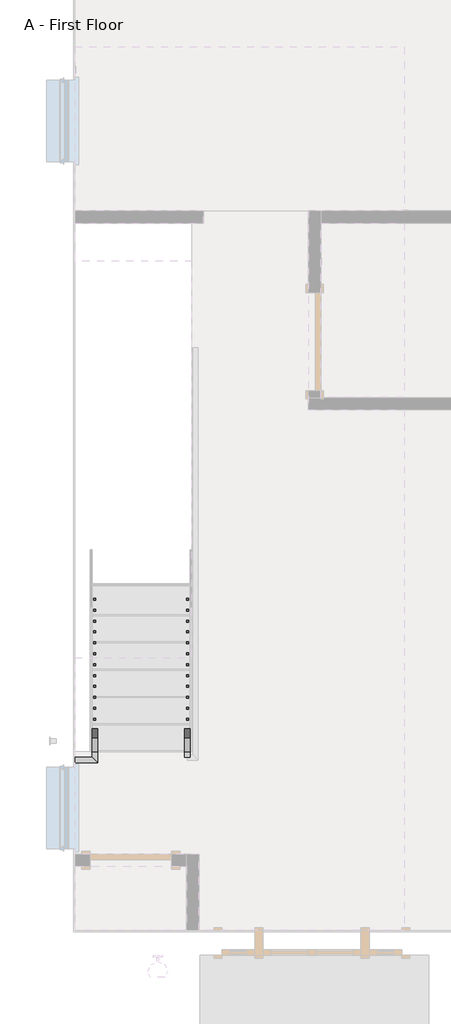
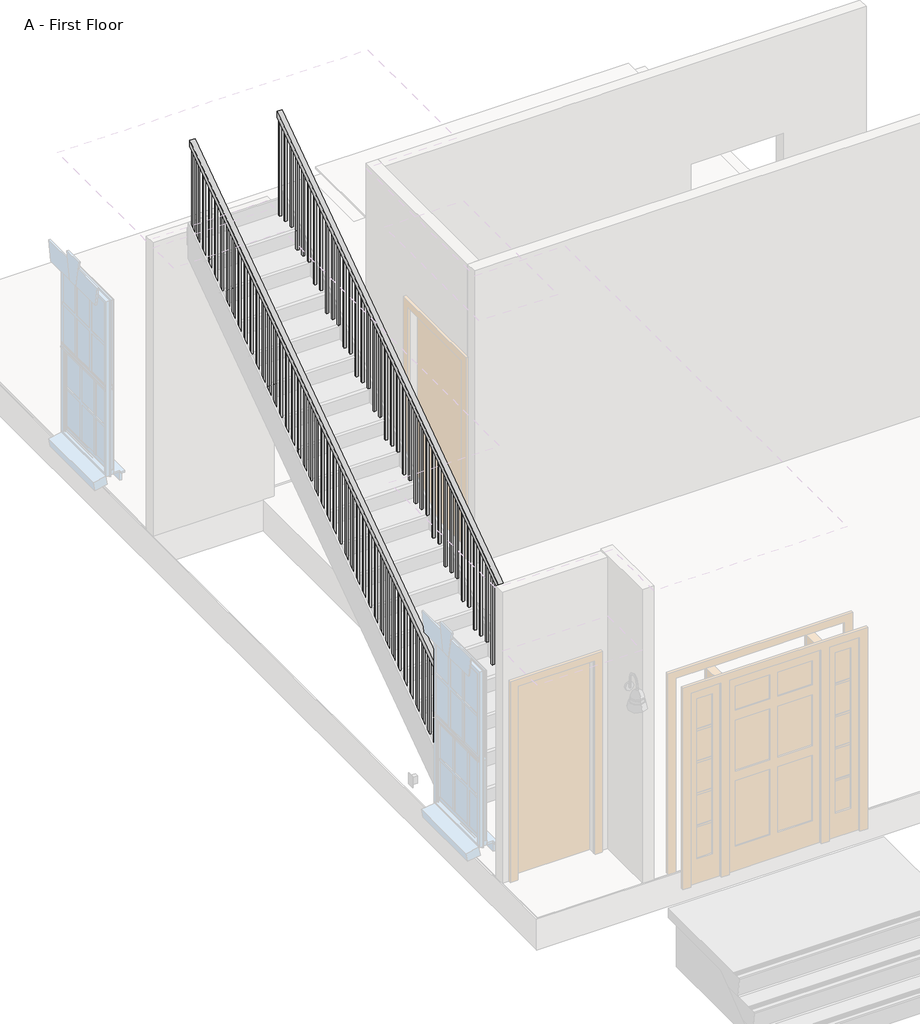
# One storey, part 2 of 3: 2 railings.
"""IFC4 building model written with IfcOpenShell, lengths in millimetres."""

import ifcopenshell
import ifcopenshell.guid

model = None  # the IFC model being written
_history = None  # IfcOwnerHistory: only IFC2X3 demands one
_inside = {}  # id of a spatial element -> (the spatial element, [elements in it])
_under = {}  # id of a project, library or spatial element -> (it, [spatial elements below it])
_declared = {}  # id of a project -> (the project, [libraries it declares])
_typed = {}  # id of a type object -> (the type object, [elements of that type])
_made_of = {}  # id of a material, layer set ... -> (it, [elements and type objects made of it])


def new_model(schema):
    """Start an empty IFC model of exactly this schema.

    Asked for "IFC4X3", IfcOpenShell would pick the latest addendum, in which some entities
    have other attributes; the version numbers below select the first issue.
    IFC2X3 requires an IfcOwnerHistory on every rooted entity: one is made here for all.
    """
    global model, _history
    if schema == "IFC4X3":
        model = ifcopenshell.file(schema_version=(4, 3, 0, 0))
    else:
        model = ifcopenshell.file(schema=schema)
    _inside.clear()
    _under.clear()
    _declared.clear()
    _typed.clear()
    _made_of.clear()
    _history = None
    if model.schema == "IFC2X3":
        org = make("IfcOrganization", Name="unknown")
        user = make(
            "IfcPersonAndOrganization",
            ThePerson=make("IfcPerson", FamilyName="unknown"),
            TheOrganization=org,
        )
        app = make(
            "IfcApplication",
            ApplicationDeveloper=org,
            Version="unknown",
            ApplicationFullName="unknown",
            ApplicationIdentifier="unknown",
        )
        _history = make(
            "IfcOwnerHistory",
            OwningUser=user,
            OwningApplication=app,
            ChangeAction="ADDED",
            CreationDate=0,
        )
    return model


def make(cls, **values):
    """One entity of the class cls with the attributes given. An attribute that is None is left unset."""
    return model.create_entity(
        cls, **{name: value for name, value in values.items() if value is not None}
    )


def rooted(cls, **values):
    """An entity with a GlobalId (a new one), such as an element, a storey or a relation."""
    return make(cls, GlobalId=ifcopenshell.guid.new(), OwnerHistory=_history, **values)


def si_unit(unit_type, name, prefix=None):
    """IfcSIUnit, for example si_unit("LENGTHUNIT", "METRE", prefix="MILLI")."""
    return make("IfcSIUnit", UnitType=unit_type, Prefix=prefix, Name=name)


def assignment(units):
    """IfcUnitAssignment: the units of a project."""
    return None if units is None else make("IfcUnitAssignment", Units=units)


def point(xyz):
    """IfcCartesianPoint."""
    return None if xyz is None else make("IfcCartesianPoint", Coordinates=xyz)


def direction(xyz):
    """IfcDirection."""
    return None if xyz is None else make("IfcDirection", DirectionRatios=xyz)


def frame(location, z_axis=None, x_axis=None):
    """IfcAxis2Placement3D, a coordinate frame: its origin and axes. An axis left out is left unset."""
    return make(
        "IfcAxis2Placement3D",
        Location=point(location),
        Axis=direction(z_axis),
        RefDirection=direction(x_axis),
    )


def origin():
    """The frame at (0, 0, 0) with its axes left unset."""
    return frame((0.0, 0.0, 0.0))


def place(relative_to, where):
    """IfcLocalPlacement: puts the frame where relative to a parent placement (None: the world)."""
    return make(
        "IfcLocalPlacement", PlacementRelTo=relative_to, RelativePlacement=where
    )


def context(
    kind, dimensions, precision=None, world=None, true_north=None, identifier=None
):
    """IfcGeometricRepresentationContext, for example the 3D "Model" context."""
    return make(
        "IfcGeometricRepresentationContext",
        ContextIdentifier=identifier,
        ContextType=kind,
        CoordinateSpaceDimension=dimensions,
        Precision=precision,
        WorldCoordinateSystem=world,
        TrueNorth=true_north,
    )


def project(units=None, contexts=None):
    """IfcProject with its units and contexts."""
    return rooted(
        "IfcProject",
        Name="project",
        RepresentationContexts=contexts,
        UnitsInContext=assignment(units),
    )


def spatial(cls, under=None, at=None, **own):
    """A site, building, storey or space (cls), placed at a placement, below another one or the project."""
    s = rooted(cls, ObjectPlacement=at, **own)
    if under is not None:
        _under.setdefault(under.id(), (under, []))[1].append(s)
    return s


def polyline(points):
    """IfcPolyline through the points."""
    return make("IfcPolyline", Points=[point(p) for p in points])


def outline(outer, holes=None, kind="AREA"):
    """IfcArbitraryClosedProfileDef: a profile drawn as a closed curve; with holes, ...WithVoids."""
    if holes is None:
        return make("IfcArbitraryClosedProfileDef", ProfileType=kind, OuterCurve=outer)
    return make(
        "IfcArbitraryProfileDefWithVoids",
        ProfileType=kind,
        OuterCurve=outer,
        InnerCurves=holes,
    )


def extrude(swept, where, along, depth):
    """IfcExtrudedAreaSolid: the profile swept, set in the frame where, extruded along a direction by depth."""
    return make(
        "IfcExtrudedAreaSolid",
        SweptArea=swept,
        Position=where,
        ExtrudedDirection=direction(along),
        Depth=depth,
    )


def faces_of(points, faces, orient=None, outer=None):
    """IfcFace entities. A face is a list of loops; a loop is a list of indices into points, from 0.

    orient and outer hold one flag for each loop. By default every Orientation is true, the
    first loop of a face is its IfcFaceOuterBound and the others are IfcFaceBound.
    """
    made = []
    for i, loops in enumerate(faces):
        bounds = []
        for j, loop in enumerate(loops):
            is_outer = j == 0 if outer is None else outer[i][j]
            bounds.append(
                make(
                    "IfcFaceOuterBound" if is_outer else "IfcFaceBound",
                    Bound=make("IfcPolyLoop", Polygon=[points[k] for k in loop]),
                    Orientation=True if orient is None else orient[i][j],
                )
            )
        made.append(make("IfcFace", Bounds=bounds))
    return made


def faceted_brep(points, faces, orient=None, outer=None, voids=None):
    """IfcFacetedBrep: a solid bounded by flat faces; with voids (closed shells), ...WithVoids."""
    shared = [point(p) for p in points]
    hull = make("IfcClosedShell", CfsFaces=faces_of(shared, faces, orient, outer))
    if voids is None:
        return make("IfcFacetedBrep", Outer=hull)
    return make(
        "IfcFacetedBrepWithVoids",
        Outer=hull,
        Voids=[
            make(cls, CfsFaces=faces_of(shared, fs, o, b)) for cls, fs, o, b in voids
        ],
    )


def shape(context_of_items, identifier, shape_type, items):
    """IfcShapeRepresentation: the items that make up one representation, for example the "Body"."""
    return make(
        "IfcShapeRepresentation",
        ContextOfItems=context_of_items,
        RepresentationIdentifier=identifier,
        RepresentationType=shape_type,
        Items=items,
    )


def made_of(thing, what):
    """Note that an element or type object is made of a material, layer set ...; save() writes the relation."""
    if what is not None:
        _made_of.setdefault(what.id(), (what, []))[1].append(thing)
    return thing


def element(
    cls,
    number,
    at=None,
    inside=None,
    cuts=None,
    type_object=None,
    material=None,
    context=None,
    identifier="Body",
    shape_type=None,
    held_by="IfcProductDefinitionShape",
    body=None,
    shapes=None,
    **own,
):
    """One element of the class cls, such as IfcWall. Its Tag is "e" and its number.

    at: its placement. inside: the storey or other place that contains it. cuts: it is an
    opening in that element (IfcRelVoidsElement). A single representation is given by context,
    identifier, shape_type and body (its items); several are given by shapes. held_by: the class
    of the entity that holds the representations. save() writes the other relations.
    """
    e = rooted(cls, Tag="e%d" % number, ObjectPlacement=at, **own)
    if body is not None:
        shapes = [shape(context, identifier, shape_type, body)]
    if shapes is not None:
        e.Representation = make(held_by, Representations=shapes)
    if inside is not None:
        _inside.setdefault(inside.id(), (inside, []))[1].append(e)
    if cuts is not None:
        rooted(
            "IfcRelVoidsElement", RelatingBuildingElement=cuts, RelatedOpeningElement=e
        )
    if type_object is not None:
        _typed.setdefault(type_object.id(), (type_object, []))[1].append(e)
    return made_of(e, material)


def aggregate(whole, parts):
    """IfcRelAggregates: a whole, such as a stair, and the parts it consists of."""
    return rooted("IfcRelAggregates", RelatingObject=whole, RelatedObjects=parts)


def save(model, path):
    """Write the relations noted so far, then the file.

    IfcRelAggregates (storeys below a building ...), IfcRelContainedInSpatialStructure (elements
    in a storey), IfcRelDefinesByType, IfcRelAssociatesMaterial and IfcRelDeclares: one each for
    every whole, place, type object, material and project.
    """
    for whole, parts in _under.values():
        aggregate(whole, parts)
    for where, things in _inside.values():
        rooted(
            "IfcRelContainedInSpatialStructure",
            RelatedElements=things,
            RelatingStructure=where,
        )
    for kind, things in _typed.values():
        rooted("IfcRelDefinesByType", RelatedObjects=things, RelatingType=kind)
    for what, things in _made_of.values():
        rooted("IfcRelAssociatesMaterial", RelatedObjects=things, RelatingMaterial=what)
    for by, libraries in _declared.values():
        rooted("IfcRelDeclares", RelatingContext=by, RelatedDefinitions=libraries)
    model.write(path)


model = new_model("IFC4")

# Units and contexts
model_context = context("Model", 3, world=origin())
ifc_project = project(units=[si_unit("LENGTHUNIT", "METRE", prefix="MILLI")], contexts=[model_context])

# Site, building, storey
site = spatial("IfcSite", under=ifc_project)
building = spatial("IfcBuilding", under=site)
storey = spatial("IfcBuildingStorey", under=building, Name="A - First Floor", Elevation=0.0)

# Railings
placement = place(None, origin())
element("IfcRailing", 1, ObjectType="Handrail - Rectangular", at=placement, inside=storey, context=model_context, shape_type="SolidModel", body=[
    faceted_brep([(-10259.5379486, -5509.8539462, 1110.9157895), (-10259.5379486, -5509.8539462, 1060.1157895), (-10208.7379486, -5509.8539462, 1060.1157895), (-10208.7379486, -5509.8539462, 1110.9157895), (-10259.5379486, -5459.0539462, 1110.9157895), (-10259.5379486, -5443.0653277, 1060.1157895), (-10208.7379486, -5443.0653277, 1060.1157895), (-10208.7379486, -5459.0539462, 1110.9157895), (-10259.5379486, -887.0539462, 4305.3), (-10208.7379486, -887.0539462, 4305.3), (-10208.7379486, -887.0539462, 4243.3290047), (-10259.5379486, -887.0539462, 4243.3290047)], [[[0, 1, 2, 3]], [[1, 0, 4, 5]], [[2, 1, 5, 6]], [[3, 2, 6, 7]], [[0, 3, 7, 4]], [[8, 9, 10, 11]], [[5, 4, 8, 11]], [[6, 5, 11, 10]], [[7, 6, 10, 9]], [[4, 7, 9, 8]]]),
    extrude(outline(polyline([(-998.1789462, 4165.6877218), (-979.1289462, 4178.997656), (-979.1289462, 3213.4342105), (-998.1789462, 3213.4342105), (-998.1789462, 4165.6877218)])), frame((-10243.6629486, 0.0, 0.0), z_axis=(1.0, 0.0, 0.0), x_axis=(0.0, 1.0, 0.0)), (0.0, 0.0, 1.0), 19.05),
    extrude(outline(polyline([(-1099.7789462, 4094.701406), (-1080.7289462, 4108.0113402), (-1080.7289462, 3213.4342105), (-1099.7789462, 3213.4342105), (-1099.7789462, 4094.701406)])), frame((-10243.6629486, 0.0, 0.0), z_axis=(1.0, 0.0, 0.0), x_axis=(0.0, 1.0, 0.0)), (0.0, 0.0, 1.0), 19.05),
    extrude(outline(polyline([(-1201.3789462, 4023.7150902), (-1182.3289462, 4037.0250244), (-1182.3289462, 3035.9684211), (-1201.3789462, 3035.9684211), (-1201.3789462, 4023.7150902)])), frame((-10243.6629486, 0.0, 0.0), z_axis=(1.0, 0.0, 0.0), x_axis=(0.0, 1.0, 0.0)), (0.0, 0.0, 1.0), 19.05),
    extrude(outline(polyline([(-1302.9789462, 3952.7287744), (-1283.9289462, 3966.0387087), (-1283.9289462, 3035.9684211), (-1302.9789462, 3035.9684211), (-1302.9789462, 3952.7287744)])), frame((-10243.6629486, 0.0, 0.0), z_axis=(1.0, 0.0, 0.0), x_axis=(0.0, 1.0, 0.0)), (0.0, 0.0, 1.0), 19.05),
    extrude(outline(polyline([(-1404.5789462, 3881.7424587), (-1385.5289462, 3895.0523929), (-1385.5289462, 3035.9684211), (-1404.5789462, 3035.9684211), (-1404.5789462, 3881.7424587)])), frame((-10243.6629486, 0.0, 0.0), z_axis=(1.0, 0.0, 0.0), x_axis=(0.0, 1.0, 0.0)), (0.0, 0.0, 1.0), 19.05),
    extrude(outline(polyline([(-1506.1789462, 3810.7561429), (-1487.1289462, 3824.0660771), (-1487.1289462, 2858.5026316), (-1506.1789462, 2858.5026316), (-1506.1789462, 3810.7561429)])), frame((-10243.6629486, 0.0, 0.0), z_axis=(1.0, 0.0, 0.0), x_axis=(0.0, 1.0, 0.0)), (0.0, 0.0, 1.0), 19.05),
    extrude(outline(polyline([(-1607.7789462, 3739.7698271), (-1588.7289462, 3753.0797613), (-1588.7289462, 2858.5026316), (-1607.7789462, 2858.5026316), (-1607.7789462, 3739.7698271)])), frame((-10243.6629486, 0.0, 0.0), z_axis=(1.0, 0.0, 0.0), x_axis=(0.0, 1.0, 0.0)), (0.0, 0.0, 1.0), 19.05),
    extrude(outline(polyline([(-1709.3789462, 3668.7835113), (-1690.3289462, 3682.0934455), (-1690.3289462, 2681.0368421), (-1709.3789462, 2681.0368421), (-1709.3789462, 3668.7835113)])), frame((-10243.6629486, 0.0, 0.0), z_axis=(1.0, 0.0, 0.0), x_axis=(0.0, 1.0, 0.0)), (0.0, 0.0, 1.0), 19.05),
    extrude(outline(polyline([(-1810.9789462, 3597.7971955), (-1791.9289462, 3611.1071297), (-1791.9289462, 2681.0368421), (-1810.9789462, 2681.0368421), (-1810.9789462, 3597.7971955)])), frame((-10243.6629486, 0.0, 0.0), z_axis=(1.0, 0.0, 0.0), x_axis=(0.0, 1.0, 0.0)), (0.0, 0.0, 1.0), 19.05),
    extrude(outline(polyline([(-1912.5789462, 3526.8108797), (-1893.5289462, 3540.1208139), (-1893.5289462, 2681.0368421), (-1912.5789462, 2681.0368421), (-1912.5789462, 3526.8108797)])), frame((-10243.6629486, 0.0, 0.0), z_axis=(1.0, 0.0, 0.0), x_axis=(0.0, 1.0, 0.0)), (0.0, 0.0, 1.0), 19.05),
    extrude(outline(polyline([(-2014.1789462, 3455.8245639), (-1995.1289462, 3469.1344981), (-1995.1289462, 2503.5710526), (-2014.1789462, 2503.5710526), (-2014.1789462, 3455.8245639)])), frame((-10243.6629486, 0.0, 0.0), z_axis=(1.0, 0.0, 0.0), x_axis=(0.0, 1.0, 0.0)), (0.0, 0.0, 1.0), 19.05),
    extrude(outline(polyline([(-2115.7789462, 3384.8382481), (-2096.7289462, 3398.1481823), (-2096.7289462, 2503.5710526), (-2115.7789462, 2503.5710526), (-2115.7789462, 3384.8382481)])), frame((-10243.6629486, 0.0, 0.0), z_axis=(1.0, 0.0, 0.0), x_axis=(0.0, 1.0, 0.0)), (0.0, 0.0, 1.0), 19.05),
    extrude(outline(polyline([(-2217.3789462, 3313.8519323), (-2198.3289462, 3327.1618666), (-2198.3289462, 2326.1052632), (-2217.3789462, 2326.1052632), (-2217.3789462, 3313.8519323)])), frame((-10243.6629486, 0.0, 0.0), z_axis=(1.0, 0.0, 0.0), x_axis=(0.0, 1.0, 0.0)), (0.0, 0.0, 1.0), 19.05),
    extrude(outline(polyline([(-2318.9789462, 3242.8656166), (-2299.9289462, 3256.1755508), (-2299.9289462, 2326.1052632), (-2318.9789462, 2326.1052632), (-2318.9789462, 3242.8656166)])), frame((-10243.6629486, 0.0, 0.0), z_axis=(1.0, 0.0, 0.0), x_axis=(0.0, 1.0, 0.0)), (0.0, 0.0, 1.0), 19.05),
    extrude(outline(polyline([(-2420.5789462, 3171.8793008), (-2401.5289462, 3185.189235), (-2401.5289462, 2326.1052632), (-2420.5789462, 2326.1052632), (-2420.5789462, 3171.8793008)])), frame((-10243.6629486, 0.0, 0.0), z_axis=(1.0, 0.0, 0.0), x_axis=(0.0, 1.0, 0.0)), (0.0, 0.0, 1.0), 19.05),
    extrude(outline(polyline([(-2522.1789462, 3100.892985), (-2503.1289462, 3114.2029192), (-2503.1289462, 2148.6394737), (-2522.1789462, 2148.6394737), (-2522.1789462, 3100.892985)])), frame((-10243.6629486, 0.0, 0.0), z_axis=(1.0, 0.0, 0.0), x_axis=(0.0, 1.0, 0.0)), (0.0, 0.0, 1.0), 19.05),
    extrude(outline(polyline([(-2623.7789462, 3029.9066692), (-2604.7289462, 3043.2166034), (-2604.7289462, 2148.6394737), (-2623.7789462, 2148.6394737), (-2623.7789462, 3029.9066692)])), frame((-10243.6629486, 0.0, 0.0), z_axis=(1.0, 0.0, 0.0), x_axis=(0.0, 1.0, 0.0)), (0.0, 0.0, 1.0), 19.05),
    extrude(outline(polyline([(-2725.3789462, 2958.9203534), (-2706.3289462, 2972.2302876), (-2706.3289462, 1971.1736842), (-2725.3789462, 1971.1736842), (-2725.3789462, 2958.9203534)])), frame((-10243.6629486, 0.0, 0.0), z_axis=(1.0, 0.0, 0.0), x_axis=(0.0, 1.0, 0.0)), (0.0, 0.0, 1.0), 19.05),
    extrude(outline(polyline([(-2826.9789462, 2887.9340376), (-2807.9289462, 2901.2439718), (-2807.9289462, 1971.1736842), (-2826.9789462, 1971.1736842), (-2826.9789462, 2887.9340376)])), frame((-10243.6629486, 0.0, 0.0), z_axis=(1.0, 0.0, 0.0), x_axis=(0.0, 1.0, 0.0)), (0.0, 0.0, 1.0), 19.05),
    extrude(outline(polyline([(-2928.5789462, 2816.9477218), (-2909.5289462, 2830.257656), (-2909.5289462, 1971.1736842), (-2928.5789462, 1971.1736842), (-2928.5789462, 2816.9477218)])), frame((-10243.6629486, 0.0, 0.0), z_axis=(1.0, 0.0, 0.0), x_axis=(0.0, 1.0, 0.0)), (0.0, 0.0, 1.0), 19.05),
    extrude(outline(polyline([(-3030.1789462, 2745.961406), (-3011.1289462, 2759.2713402), (-3011.1289462, 1793.7078947), (-3030.1789462, 1793.7078947), (-3030.1789462, 2745.961406)])), frame((-10243.6629486, 0.0, 0.0), z_axis=(1.0, 0.0, 0.0), x_axis=(0.0, 1.0, 0.0)), (0.0, 0.0, 1.0), 19.05),
    extrude(outline(polyline([(-3131.7789462, 2674.9750902), (-3112.7289462, 2688.2850244), (-3112.7289462, 1793.7078947), (-3131.7789462, 1793.7078947), (-3131.7789462, 2674.9750902)])), frame((-10243.6629486, 0.0, 0.0), z_axis=(1.0, 0.0, 0.0), x_axis=(0.0, 1.0, 0.0)), (0.0, 0.0, 1.0), 19.05),
    extrude(outline(polyline([(-3233.3789462, 2603.9887744), (-3214.3289462, 2617.2987087), (-3214.3289462, 1616.2421053), (-3233.3789462, 1616.2421053), (-3233.3789462, 2603.9887744)])), frame((-10243.6629486, 0.0, 0.0), z_axis=(1.0, 0.0, 0.0), x_axis=(0.0, 1.0, 0.0)), (0.0, 0.0, 1.0), 19.05),
    extrude(outline(polyline([(-3334.9789462, 2533.0024587), (-3315.9289462, 2546.3123929), (-3315.9289462, 1616.2421053), (-3334.9789462, 1616.2421053), (-3334.9789462, 2533.0024587)])), frame((-10243.6629486, 0.0, 0.0), z_axis=(1.0, 0.0, 0.0), x_axis=(0.0, 1.0, 0.0)), (0.0, 0.0, 1.0), 19.05),
    extrude(outline(polyline([(-3436.5789462, 2462.0161429), (-3417.5289462, 2475.3260771), (-3417.5289462, 1616.2421053), (-3436.5789462, 1616.2421053), (-3436.5789462, 2462.0161429)])), frame((-10243.6629486, 0.0, 0.0), z_axis=(1.0, 0.0, 0.0), x_axis=(0.0, 1.0, 0.0)), (0.0, 0.0, 1.0), 19.05),
    extrude(outline(polyline([(-3538.1789462, 2391.0298271), (-3519.1289462, 2404.3397613), (-3519.1289462, 1438.7763158), (-3538.1789462, 1438.7763158), (-3538.1789462, 2391.0298271)])), frame((-10243.6629486, 0.0, 0.0), z_axis=(1.0, 0.0, 0.0), x_axis=(0.0, 1.0, 0.0)), (0.0, 0.0, 1.0), 19.05),
    extrude(outline(polyline([(-3639.7789462, 2320.0435113), (-3620.7289462, 2333.3534455), (-3620.7289462, 1438.7763158), (-3639.7789462, 1438.7763158), (-3639.7789462, 2320.0435113)])), frame((-10243.6629486, 0.0, 0.0), z_axis=(1.0, 0.0, 0.0), x_axis=(0.0, 1.0, 0.0)), (0.0, 0.0, 1.0), 19.05),
    extrude(outline(polyline([(-3741.3789462, 2249.0571955), (-3722.3289462, 2262.3671297), (-3722.3289462, 1261.3105263), (-3741.3789462, 1261.3105263), (-3741.3789462, 2249.0571955)])), frame((-10243.6629486, 0.0, 0.0), z_axis=(1.0, 0.0, 0.0), x_axis=(0.0, 1.0, 0.0)), (0.0, 0.0, 1.0), 19.05),
    extrude(outline(polyline([(-3842.9789462, 2178.0708797), (-3823.9289462, 2191.3808139), (-3823.9289462, 1261.3105263), (-3842.9789462, 1261.3105263), (-3842.9789462, 2178.0708797)])), frame((-10243.6629486, 0.0, 0.0), z_axis=(1.0, 0.0, 0.0), x_axis=(0.0, 1.0, 0.0)), (0.0, 0.0, 1.0), 19.05),
    extrude(outline(polyline([(-3944.5789462, 2107.0845639), (-3925.5289462, 2120.3944981), (-3925.5289462, 1261.3105263), (-3944.5789462, 1261.3105263), (-3944.5789462, 2107.0845639)])), frame((-10243.6629486, 0.0, 0.0), z_axis=(1.0, 0.0, 0.0), x_axis=(0.0, 1.0, 0.0)), (0.0, 0.0, 1.0), 19.05),
    extrude(outline(polyline([(-4046.1789462, 2036.0982481), (-4027.1289462, 2049.4081823), (-4027.1289462, 1083.8447368), (-4046.1789462, 1083.8447368), (-4046.1789462, 2036.0982481)])), frame((-10243.6629486, 0.0, 0.0), z_axis=(1.0, 0.0, 0.0), x_axis=(0.0, 1.0, 0.0)), (0.0, 0.0, 1.0), 19.05),
    extrude(outline(polyline([(-4147.7789462, 1965.1119323), (-4128.7289462, 1978.4218666), (-4128.7289462, 1083.8447368), (-4147.7789462, 1083.8447368), (-4147.7789462, 1965.1119323)])), frame((-10243.6629486, 0.0, 0.0), z_axis=(1.0, 0.0, 0.0), x_axis=(0.0, 1.0, 0.0)), (0.0, 0.0, 1.0), 19.05),
    extrude(outline(polyline([(-4249.3789462, 1894.1256166), (-4230.3289462, 1907.4355508), (-4230.3289462, 906.3789474), (-4249.3789462, 906.3789474), (-4249.3789462, 1894.1256166)])), frame((-10243.6629486, 0.0, 0.0), z_axis=(1.0, 0.0, 0.0), x_axis=(0.0, 1.0, 0.0)), (0.0, 0.0, 1.0), 19.05),
    extrude(outline(polyline([(-4350.9789462, 1823.1393008), (-4331.9289462, 1836.449235), (-4331.9289462, 906.3789474), (-4350.9789462, 906.3789474), (-4350.9789462, 1823.1393008)])), frame((-10243.6629486, 0.0, 0.0), z_axis=(1.0, 0.0, 0.0), x_axis=(0.0, 1.0, 0.0)), (0.0, 0.0, 1.0), 19.05),
    extrude(outline(polyline([(-4452.5789462, 1752.152985), (-4433.5289462, 1765.4629192), (-4433.5289462, 906.3789474), (-4452.5789462, 906.3789474), (-4452.5789462, 1752.152985)])), frame((-10243.6629486, 0.0, 0.0), z_axis=(1.0, 0.0, 0.0), x_axis=(0.0, 1.0, 0.0)), (0.0, 0.0, 1.0), 19.05),
    extrude(outline(polyline([(-4554.1789462, 1681.1666692), (-4535.1289462, 1694.4766034), (-4535.1289462, 728.9131579), (-4554.1789462, 728.9131579), (-4554.1789462, 1681.1666692)])), frame((-10243.6629486, 0.0, 0.0), z_axis=(1.0, 0.0, 0.0), x_axis=(0.0, 1.0, 0.0)), (0.0, 0.0, 1.0), 19.05),
    extrude(outline(polyline([(-4655.7789462, 1610.1803534), (-4636.7289462, 1623.4902876), (-4636.7289462, 728.9131579), (-4655.7789462, 728.9131579), (-4655.7789462, 1610.1803534)])), frame((-10243.6629486, 0.0, 0.0), z_axis=(1.0, 0.0, 0.0), x_axis=(0.0, 1.0, 0.0)), (0.0, 0.0, 1.0), 19.05),
    extrude(outline(polyline([(-4757.3789462, 1539.1940376), (-4738.3289462, 1552.5039718), (-4738.3289462, 551.4473684), (-4757.3789462, 551.4473684), (-4757.3789462, 1539.1940376)])), frame((-10243.6629486, 0.0, 0.0), z_axis=(1.0, 0.0, 0.0), x_axis=(0.0, 1.0, 0.0)), (0.0, 0.0, 1.0), 19.05),
    extrude(outline(polyline([(-4858.9789462, 1468.2077218), (-4839.9289462, 1481.517656), (-4839.9289462, 551.4473684), (-4858.9789462, 551.4473684), (-4858.9789462, 1468.2077218)])), frame((-10243.6629486, 0.0, 0.0), z_axis=(1.0, 0.0, 0.0), x_axis=(0.0, 1.0, 0.0)), (0.0, 0.0, 1.0), 19.05),
    extrude(outline(polyline([(-4960.5789462, 1397.221406), (-4941.5289462, 1410.5313402), (-4941.5289462, 551.4473684), (-4960.5789462, 551.4473684), (-4960.5789462, 1397.221406)])), frame((-10243.6629486, 0.0, 0.0), z_axis=(1.0, 0.0, 0.0), x_axis=(0.0, 1.0, 0.0)), (0.0, 0.0, 1.0), 19.05),
    extrude(outline(polyline([(-5062.1789462, 1326.2350902), (-5043.1289462, 1339.5450244), (-5043.1289462, 373.9815789), (-5062.1789462, 373.9815789), (-5062.1789462, 1326.2350902)])), frame((-10243.6629486, 0.0, 0.0), z_axis=(1.0, 0.0, 0.0), x_axis=(0.0, 1.0, 0.0)), (0.0, 0.0, 1.0), 19.05),
    extrude(outline(polyline([(-5163.7789462, 1255.2487744), (-5144.7289462, 1268.5587087), (-5144.7289462, 373.9815789), (-5163.7789462, 373.9815789), (-5163.7789462, 1255.2487744)])), frame((-10243.6629486, 0.0, 0.0), z_axis=(1.0, 0.0, 0.0), x_axis=(0.0, 1.0, 0.0)), (0.0, 0.0, 1.0), 19.05),
    extrude(outline(polyline([(-5265.3789462, 1184.2624587), (-5246.3289462, 1197.5723929), (-5246.3289462, 196.5157895), (-5265.3789462, 196.5157895), (-5265.3789462, 1184.2624587)])), frame((-10243.6629486, 0.0, 0.0), z_axis=(1.0, 0.0, 0.0), x_axis=(0.0, 1.0, 0.0)), (0.0, 0.0, 1.0), 19.05),
    extrude(outline(polyline([(-5366.9789462, 1113.2761429), (-5347.9289462, 1126.5860771), (-5347.9289462, 196.5157895), (-5366.9789462, 196.5157895), (-5366.9789462, 1113.2761429)])), frame((-10243.6629486, 0.0, 0.0), z_axis=(1.0, 0.0, 0.0), x_axis=(0.0, 1.0, 0.0)), (0.0, 0.0, 1.0), 19.05),
    extrude(outline(polyline([(-10224.6129486, -5468.5789462), (-10243.6629486, -5468.5789462), (-10243.6629486, -5449.5289462), (-10224.6129486, -5449.5289462), (-10224.6129486, -5468.5789462)])), frame((0.0, 0.0, 196.5157895), z_axis=(0.0, 0.0, 1.0), x_axis=(1.0, 0.0, 0.0)), (0.0, 0.0, 1.0), 863.6),
    extrude(outline(polyline([(-906.1039462, 4230.0190705), (-887.0539462, 4243.3290047), (-887.0539462, 3213.4342105), (-906.1039462, 3213.4342105), (-906.1039462, 4230.0190705)])), frame((-10243.6629486, 0.0, 0.0), z_axis=(1.0, 0.0, 0.0), x_axis=(0.0, 1.0, 0.0)), (0.0, 0.0, 1.0), 19.05),
    extrude(outline(polyline([(-10224.6129486, -5509.8539462), (-10243.6629486, -5509.8539462), (-10243.6629486, -5490.8039462), (-10224.6129486, -5490.8039462), (-10224.6129486, -5509.8539462)])), frame((0.0, 0.0, 196.5157895), z_axis=(0.0, 0.0, 1.0), x_axis=(1.0, 0.0, 0.0)), (0.0, 0.0, 1.0), 863.6),
])
element("IfcRailing", 2, ObjectType="Handrail - Rectangular", at=placement, inside=storey, context=model_context, shape_type="SolidModel", body=[
    faceted_brep([(-11281.8879486, -5509.8539462, 1110.9157895), (-11281.8879486, -5509.8539462, 1060.1157895), (-11281.8879486, -5560.6539462, 1060.1157895), (-11281.8879486, -5560.6539462, 1110.9157895), (-11123.1379486, -5509.8539462, 1110.9157895), (-11123.1379486, -5509.8539462, 1060.1157895), (-11072.3379486, -5560.6539462, 1060.1157895), (-11072.3379486, -5560.6539462, 1110.9157895), (-11123.1379486, -5459.0539462, 1110.9157895), (-11123.1379486, -5443.0653277, 1060.1157895), (-11072.3379486, -5443.0653277, 1060.1157895), (-11072.3379486, -5459.0539462, 1110.9157895), (-11123.1379486, -887.0539462, 4305.3), (-11072.3379486, -887.0539462, 4305.3), (-11072.3379486, -887.0539462, 4243.3290047), (-11123.1379486, -887.0539462, 4243.3290047)], [[[0, 1, 2, 3]], [[1, 0, 4, 5]], [[2, 1, 5, 6]], [[3, 2, 6, 7]], [[0, 3, 7, 4]], [[5, 4, 8, 9]], [[6, 5, 9, 10]], [[7, 6, 10, 11]], [[4, 7, 11, 8]], [[12, 13, 14, 15]], [[9, 8, 12, 15]], [[10, 9, 15, 14]], [[11, 10, 14, 13]], [[8, 11, 13, 12]]]),
    extrude(outline(polyline([(-979.1289462, 4178.997656), (-979.1289462, 3213.4342105), (-998.1789462, 3213.4342105), (-998.1789462, 4165.6877218), (-979.1289462, 4178.997656)])), frame((-11107.2629486, 0.0, 0.0), z_axis=(1.0, 0.0, 0.0), x_axis=(0.0, 1.0, 0.0)), (0.0, 0.0, 1.0), 19.05),
    extrude(outline(polyline([(-1080.7289462, 4108.0113402), (-1080.7289462, 3213.4342105), (-1099.7789462, 3213.4342105), (-1099.7789462, 4094.701406), (-1080.7289462, 4108.0113402)])), frame((-11107.2629486, 0.0, 0.0), z_axis=(1.0, 0.0, 0.0), x_axis=(0.0, 1.0, 0.0)), (0.0, 0.0, 1.0), 19.05),
    extrude(outline(polyline([(-1182.3289462, 4037.0250244), (-1182.3289462, 3035.9684211), (-1201.3789462, 3035.9684211), (-1201.3789462, 4023.7150902), (-1182.3289462, 4037.0250244)])), frame((-11107.2629486, 0.0, 0.0), z_axis=(1.0, 0.0, 0.0), x_axis=(0.0, 1.0, 0.0)), (0.0, 0.0, 1.0), 19.05),
    extrude(outline(polyline([(-1283.9289462, 3966.0387087), (-1283.9289462, 3035.9684211), (-1302.9789462, 3035.9684211), (-1302.9789462, 3952.7287744), (-1283.9289462, 3966.0387087)])), frame((-11107.2629486, 0.0, 0.0), z_axis=(1.0, 0.0, 0.0), x_axis=(0.0, 1.0, 0.0)), (0.0, 0.0, 1.0), 19.05),
    extrude(outline(polyline([(-1385.5289462, 3895.0523929), (-1385.5289462, 3035.9684211), (-1404.5789462, 3035.9684211), (-1404.5789462, 3881.7424587), (-1385.5289462, 3895.0523929)])), frame((-11107.2629486, 0.0, 0.0), z_axis=(1.0, 0.0, 0.0), x_axis=(0.0, 1.0, 0.0)), (0.0, 0.0, 1.0), 19.05),
    extrude(outline(polyline([(-1487.1289462, 3824.0660771), (-1487.1289462, 2858.5026316), (-1506.1789462, 2858.5026316), (-1506.1789462, 3810.7561429), (-1487.1289462, 3824.0660771)])), frame((-11107.2629486, 0.0, 0.0), z_axis=(1.0, 0.0, 0.0), x_axis=(0.0, 1.0, 0.0)), (0.0, 0.0, 1.0), 19.05),
    extrude(outline(polyline([(-1588.7289462, 3753.0797613), (-1588.7289462, 2858.5026316), (-1607.7789462, 2858.5026316), (-1607.7789462, 3739.7698271), (-1588.7289462, 3753.0797613)])), frame((-11107.2629486, 0.0, 0.0), z_axis=(1.0, 0.0, 0.0), x_axis=(0.0, 1.0, 0.0)), (0.0, 0.0, 1.0), 19.05),
    extrude(outline(polyline([(-1690.3289462, 3682.0934455), (-1690.3289462, 2681.0368421), (-1709.3789462, 2681.0368421), (-1709.3789462, 3668.7835113), (-1690.3289462, 3682.0934455)])), frame((-11107.2629486, 0.0, 0.0), z_axis=(1.0, 0.0, 0.0), x_axis=(0.0, 1.0, 0.0)), (0.0, 0.0, 1.0), 19.05),
    extrude(outline(polyline([(-1791.9289462, 3611.1071297), (-1791.9289462, 2681.0368421), (-1810.9789462, 2681.0368421), (-1810.9789462, 3597.7971955), (-1791.9289462, 3611.1071297)])), frame((-11107.2629486, 0.0, 0.0), z_axis=(1.0, 0.0, 0.0), x_axis=(0.0, 1.0, 0.0)), (0.0, 0.0, 1.0), 19.05),
    extrude(outline(polyline([(-1893.5289462, 3540.1208139), (-1893.5289462, 2681.0368421), (-1912.5789462, 2681.0368421), (-1912.5789462, 3526.8108797), (-1893.5289462, 3540.1208139)])), frame((-11107.2629486, 0.0, 0.0), z_axis=(1.0, 0.0, 0.0), x_axis=(0.0, 1.0, 0.0)), (0.0, 0.0, 1.0), 19.05),
    extrude(outline(polyline([(-1995.1289462, 3469.1344981), (-1995.1289462, 2503.5710526), (-2014.1789462, 2503.5710526), (-2014.1789462, 3455.8245639), (-1995.1289462, 3469.1344981)])), frame((-11107.2629486, 0.0, 0.0), z_axis=(1.0, 0.0, 0.0), x_axis=(0.0, 1.0, 0.0)), (0.0, 0.0, 1.0), 19.05),
    extrude(outline(polyline([(-2096.7289462, 3398.1481823), (-2096.7289462, 2503.5710526), (-2115.7789462, 2503.5710526), (-2115.7789462, 3384.8382481), (-2096.7289462, 3398.1481823)])), frame((-11107.2629486, 0.0, 0.0), z_axis=(1.0, 0.0, 0.0), x_axis=(0.0, 1.0, 0.0)), (0.0, 0.0, 1.0), 19.05),
    extrude(outline(polyline([(-2198.3289462, 3327.1618666), (-2198.3289462, 2326.1052632), (-2217.3789462, 2326.1052632), (-2217.3789462, 3313.8519323), (-2198.3289462, 3327.1618666)])), frame((-11107.2629486, 0.0, 0.0), z_axis=(1.0, 0.0, 0.0), x_axis=(0.0, 1.0, 0.0)), (0.0, 0.0, 1.0), 19.05),
    extrude(outline(polyline([(-2299.9289462, 3256.1755508), (-2299.9289462, 2326.1052632), (-2318.9789462, 2326.1052632), (-2318.9789462, 3242.8656166), (-2299.9289462, 3256.1755508)])), frame((-11107.2629486, 0.0, 0.0), z_axis=(1.0, 0.0, 0.0), x_axis=(0.0, 1.0, 0.0)), (0.0, 0.0, 1.0), 19.05),
    extrude(outline(polyline([(-2401.5289462, 3185.189235), (-2401.5289462, 2326.1052632), (-2420.5789462, 2326.1052632), (-2420.5789462, 3171.8793008), (-2401.5289462, 3185.189235)])), frame((-11107.2629486, 0.0, 0.0), z_axis=(1.0, 0.0, 0.0), x_axis=(0.0, 1.0, 0.0)), (0.0, 0.0, 1.0), 19.05),
    extrude(outline(polyline([(-2503.1289462, 3114.2029192), (-2503.1289462, 2148.6394737), (-2522.1789462, 2148.6394737), (-2522.1789462, 3100.892985), (-2503.1289462, 3114.2029192)])), frame((-11107.2629486, 0.0, 0.0), z_axis=(1.0, 0.0, 0.0), x_axis=(0.0, 1.0, 0.0)), (0.0, 0.0, 1.0), 19.05),
    extrude(outline(polyline([(-2604.7289462, 3043.2166034), (-2604.7289462, 2148.6394737), (-2623.7789462, 2148.6394737), (-2623.7789462, 3029.9066692), (-2604.7289462, 3043.2166034)])), frame((-11107.2629486, 0.0, 0.0), z_axis=(1.0, 0.0, 0.0), x_axis=(0.0, 1.0, 0.0)), (0.0, 0.0, 1.0), 19.05),
    extrude(outline(polyline([(-2706.3289462, 2972.2302876), (-2706.3289462, 1971.1736842), (-2725.3789462, 1971.1736842), (-2725.3789462, 2958.9203534), (-2706.3289462, 2972.2302876)])), frame((-11107.2629486, 0.0, 0.0), z_axis=(1.0, 0.0, 0.0), x_axis=(0.0, 1.0, 0.0)), (0.0, 0.0, 1.0), 19.05),
    extrude(outline(polyline([(-2807.9289462, 2901.2439718), (-2807.9289462, 1971.1736842), (-2826.9789462, 1971.1736842), (-2826.9789462, 2887.9340376), (-2807.9289462, 2901.2439718)])), frame((-11107.2629486, 0.0, 0.0), z_axis=(1.0, 0.0, 0.0), x_axis=(0.0, 1.0, 0.0)), (0.0, 0.0, 1.0), 19.05),
    extrude(outline(polyline([(-2909.5289462, 2830.257656), (-2909.5289462, 1971.1736842), (-2928.5789462, 1971.1736842), (-2928.5789462, 2816.9477218), (-2909.5289462, 2830.257656)])), frame((-11107.2629486, 0.0, 0.0), z_axis=(1.0, 0.0, 0.0), x_axis=(0.0, 1.0, 0.0)), (0.0, 0.0, 1.0), 19.05),
    extrude(outline(polyline([(-3011.1289462, 2759.2713402), (-3011.1289462, 1793.7078947), (-3030.1789462, 1793.7078947), (-3030.1789462, 2745.961406), (-3011.1289462, 2759.2713402)])), frame((-11107.2629486, 0.0, 0.0), z_axis=(1.0, 0.0, 0.0), x_axis=(0.0, 1.0, 0.0)), (0.0, 0.0, 1.0), 19.05),
    extrude(outline(polyline([(-3112.7289462, 2688.2850244), (-3112.7289462, 1793.7078947), (-3131.7789462, 1793.7078947), (-3131.7789462, 2674.9750902), (-3112.7289462, 2688.2850244)])), frame((-11107.2629486, 0.0, 0.0), z_axis=(1.0, 0.0, 0.0), x_axis=(0.0, 1.0, 0.0)), (0.0, 0.0, 1.0), 19.05),
    extrude(outline(polyline([(-3214.3289462, 2617.2987087), (-3214.3289462, 1616.2421053), (-3233.3789462, 1616.2421053), (-3233.3789462, 2603.9887744), (-3214.3289462, 2617.2987087)])), frame((-11107.2629486, 0.0, 0.0), z_axis=(1.0, 0.0, 0.0), x_axis=(0.0, 1.0, 0.0)), (0.0, 0.0, 1.0), 19.05),
    extrude(outline(polyline([(-3315.9289462, 2546.3123929), (-3315.9289462, 1616.2421053), (-3334.9789462, 1616.2421053), (-3334.9789462, 2533.0024587), (-3315.9289462, 2546.3123929)])), frame((-11107.2629486, 0.0, 0.0), z_axis=(1.0, 0.0, 0.0), x_axis=(0.0, 1.0, 0.0)), (0.0, 0.0, 1.0), 19.05),
    extrude(outline(polyline([(-3417.5289462, 2475.3260771), (-3417.5289462, 1616.2421053), (-3436.5789462, 1616.2421053), (-3436.5789462, 2462.0161429), (-3417.5289462, 2475.3260771)])), frame((-11107.2629486, 0.0, 0.0), z_axis=(1.0, 0.0, 0.0), x_axis=(0.0, 1.0, 0.0)), (0.0, 0.0, 1.0), 19.05),
    extrude(outline(polyline([(-3519.1289462, 2404.3397613), (-3519.1289462, 1438.7763158), (-3538.1789462, 1438.7763158), (-3538.1789462, 2391.0298271), (-3519.1289462, 2404.3397613)])), frame((-11107.2629486, 0.0, 0.0), z_axis=(1.0, 0.0, 0.0), x_axis=(0.0, 1.0, 0.0)), (0.0, 0.0, 1.0), 19.05),
    extrude(outline(polyline([(-3620.7289462, 2333.3534455), (-3620.7289462, 1438.7763158), (-3639.7789462, 1438.7763158), (-3639.7789462, 2320.0435113), (-3620.7289462, 2333.3534455)])), frame((-11107.2629486, 0.0, 0.0), z_axis=(1.0, 0.0, 0.0), x_axis=(0.0, 1.0, 0.0)), (0.0, 0.0, 1.0), 19.05),
    extrude(outline(polyline([(-3722.3289462, 2262.3671297), (-3722.3289462, 1261.3105263), (-3741.3789462, 1261.3105263), (-3741.3789462, 2249.0571955), (-3722.3289462, 2262.3671297)])), frame((-11107.2629486, 0.0, 0.0), z_axis=(1.0, 0.0, 0.0), x_axis=(0.0, 1.0, 0.0)), (0.0, 0.0, 1.0), 19.05),
    extrude(outline(polyline([(-3823.9289462, 2191.3808139), (-3823.9289462, 1261.3105263), (-3842.9789462, 1261.3105263), (-3842.9789462, 2178.0708797), (-3823.9289462, 2191.3808139)])), frame((-11107.2629486, 0.0, 0.0), z_axis=(1.0, 0.0, 0.0), x_axis=(0.0, 1.0, 0.0)), (0.0, 0.0, 1.0), 19.05),
    extrude(outline(polyline([(-3925.5289462, 2120.3944981), (-3925.5289462, 1261.3105263), (-3944.5789462, 1261.3105263), (-3944.5789462, 2107.0845639), (-3925.5289462, 2120.3944981)])), frame((-11107.2629486, 0.0, 0.0), z_axis=(1.0, 0.0, 0.0), x_axis=(0.0, 1.0, 0.0)), (0.0, 0.0, 1.0), 19.05),
    extrude(outline(polyline([(-4027.1289462, 2049.4081823), (-4027.1289462, 1083.8447368), (-4046.1789462, 1083.8447368), (-4046.1789462, 2036.0982481), (-4027.1289462, 2049.4081823)])), frame((-11107.2629486, 0.0, 0.0), z_axis=(1.0, 0.0, 0.0), x_axis=(0.0, 1.0, 0.0)), (0.0, 0.0, 1.0), 19.05),
    extrude(outline(polyline([(-4128.7289462, 1978.4218666), (-4128.7289462, 1083.8447368), (-4147.7789462, 1083.8447368), (-4147.7789462, 1965.1119323), (-4128.7289462, 1978.4218666)])), frame((-11107.2629486, 0.0, 0.0), z_axis=(1.0, 0.0, 0.0), x_axis=(0.0, 1.0, 0.0)), (0.0, 0.0, 1.0), 19.05),
    extrude(outline(polyline([(-4230.3289462, 1907.4355508), (-4230.3289462, 906.3789474), (-4249.3789462, 906.3789474), (-4249.3789462, 1894.1256166), (-4230.3289462, 1907.4355508)])), frame((-11107.2629486, 0.0, 0.0), z_axis=(1.0, 0.0, 0.0), x_axis=(0.0, 1.0, 0.0)), (0.0, 0.0, 1.0), 19.05),
    extrude(outline(polyline([(-4331.9289462, 1836.449235), (-4331.9289462, 906.3789474), (-4350.9789462, 906.3789474), (-4350.9789462, 1823.1393008), (-4331.9289462, 1836.449235)])), frame((-11107.2629486, 0.0, 0.0), z_axis=(1.0, 0.0, 0.0), x_axis=(0.0, 1.0, 0.0)), (0.0, 0.0, 1.0), 19.05),
    extrude(outline(polyline([(-4433.5289462, 1765.4629192), (-4433.5289462, 906.3789474), (-4452.5789462, 906.3789474), (-4452.5789462, 1752.152985), (-4433.5289462, 1765.4629192)])), frame((-11107.2629486, 0.0, 0.0), z_axis=(1.0, 0.0, 0.0), x_axis=(0.0, 1.0, 0.0)), (0.0, 0.0, 1.0), 19.05),
    extrude(outline(polyline([(-4535.1289462, 1694.4766034), (-4535.1289462, 728.9131579), (-4554.1789462, 728.9131579), (-4554.1789462, 1681.1666692), (-4535.1289462, 1694.4766034)])), frame((-11107.2629486, 0.0, 0.0), z_axis=(1.0, 0.0, 0.0), x_axis=(0.0, 1.0, 0.0)), (0.0, 0.0, 1.0), 19.05),
    extrude(outline(polyline([(-4636.7289462, 1623.4902876), (-4636.7289462, 728.9131579), (-4655.7789462, 728.9131579), (-4655.7789462, 1610.1803534), (-4636.7289462, 1623.4902876)])), frame((-11107.2629486, 0.0, 0.0), z_axis=(1.0, 0.0, 0.0), x_axis=(0.0, 1.0, 0.0)), (0.0, 0.0, 1.0), 19.05),
    extrude(outline(polyline([(-4738.3289462, 1552.5039718), (-4738.3289462, 551.4473684), (-4757.3789462, 551.4473684), (-4757.3789462, 1539.1940376), (-4738.3289462, 1552.5039718)])), frame((-11107.2629486, 0.0, 0.0), z_axis=(1.0, 0.0, 0.0), x_axis=(0.0, 1.0, 0.0)), (0.0, 0.0, 1.0), 19.05),
    extrude(outline(polyline([(-4839.9289462, 1481.517656), (-4839.9289462, 551.4473684), (-4858.9789462, 551.4473684), (-4858.9789462, 1468.2077218), (-4839.9289462, 1481.517656)])), frame((-11107.2629486, 0.0, 0.0), z_axis=(1.0, 0.0, 0.0), x_axis=(0.0, 1.0, 0.0)), (0.0, 0.0, 1.0), 19.05),
    extrude(outline(polyline([(-4941.5289462, 1410.5313402), (-4941.5289462, 551.4473684), (-4960.5789462, 551.4473684), (-4960.5789462, 1397.221406), (-4941.5289462, 1410.5313402)])), frame((-11107.2629486, 0.0, 0.0), z_axis=(1.0, 0.0, 0.0), x_axis=(0.0, 1.0, 0.0)), (0.0, 0.0, 1.0), 19.05),
    extrude(outline(polyline([(-5043.1289462, 1339.5450244), (-5043.1289462, 373.9815789), (-5062.1789462, 373.9815789), (-5062.1789462, 1326.2350902), (-5043.1289462, 1339.5450244)])), frame((-11107.2629486, 0.0, 0.0), z_axis=(1.0, 0.0, 0.0), x_axis=(0.0, 1.0, 0.0)), (0.0, 0.0, 1.0), 19.05),
    extrude(outline(polyline([(-5144.7289462, 1268.5587087), (-5144.7289462, 373.9815789), (-5163.7789462, 373.9815789), (-5163.7789462, 1255.2487744), (-5144.7289462, 1268.5587087)])), frame((-11107.2629486, 0.0, 0.0), z_axis=(1.0, 0.0, 0.0), x_axis=(0.0, 1.0, 0.0)), (0.0, 0.0, 1.0), 19.05),
    extrude(outline(polyline([(-5246.3289462, 1197.5723929), (-5246.3289462, 196.5157895), (-5265.3789462, 196.5157895), (-5265.3789462, 1184.2624587), (-5246.3289462, 1197.5723929)])), frame((-11107.2629486, 0.0, 0.0), z_axis=(1.0, 0.0, 0.0), x_axis=(0.0, 1.0, 0.0)), (0.0, 0.0, 1.0), 19.05),
    extrude(outline(polyline([(-5347.9289462, 1126.5860771), (-5347.9289462, 196.5157895), (-5366.9789462, 196.5157895), (-5366.9789462, 1113.2761429), (-5347.9289462, 1126.5860771)])), frame((-11107.2629486, 0.0, 0.0), z_axis=(1.0, 0.0, 0.0), x_axis=(0.0, 1.0, 0.0)), (0.0, 0.0, 1.0), 19.05),
    extrude(outline(polyline([(-11189.8129486, -5525.7289462), (-11170.7629486, -5525.7289462), (-11170.7629486, -5544.7789462), (-11189.8129486, -5544.7789462), (-11189.8129486, -5525.7289462)])), frame((0.0, 0.0, 196.5157895), z_axis=(0.0, 0.0, 1.0), x_axis=(1.0, 0.0, 0.0)), (0.0, 0.0, 1.0), 863.6),
    extrude(outline(polyline([(-11107.2629486, -5468.5789462), (-11107.2629486, -5449.5289462), (-11088.2129486, -5449.5289462), (-11088.2129486, -5468.5789462), (-11107.2629486, -5468.5789462)])), frame((0.0, 0.0, 196.5157895), z_axis=(0.0, 0.0, 1.0), x_axis=(1.0, 0.0, 0.0)), (0.0, 0.0, 1.0), 863.6),
    extrude(outline(polyline([(-11107.2629486, -5525.7289462), (-11088.2129486, -5525.7289462), (-11088.2129486, -5544.7789462), (-11107.2629486, -5544.7789462), (-11107.2629486, -5525.7289462)])), frame((0.0, 0.0, 196.5157895), z_axis=(0.0, 0.0, 1.0), x_axis=(1.0, 0.0, 0.0)), (0.0, 0.0, 1.0), 863.6),
    extrude(outline(polyline([(-887.0539462, 4243.3290047), (-887.0539462, 3213.4342105), (-906.1039462, 3213.4342105), (-906.1039462, 4230.0190705), (-887.0539462, 4243.3290047)])), frame((-11107.2629486, 0.0, 0.0), z_axis=(1.0, 0.0, 0.0), x_axis=(0.0, 1.0, 0.0)), (0.0, 0.0, 1.0), 19.05),
    extrude(outline(polyline([(-11281.8879486, -5525.7289462), (-11262.8379486, -5525.7289462), (-11262.8379486, -5544.7789462), (-11281.8879486, -5544.7789462), (-11281.8879486, -5525.7289462)])), frame((0.0, 0.0, 196.5157895), z_axis=(0.0, 0.0, 1.0), x_axis=(1.0, 0.0, 0.0)), (0.0, 0.0, 1.0), 863.6),
])

save(model, "model.ifc")
